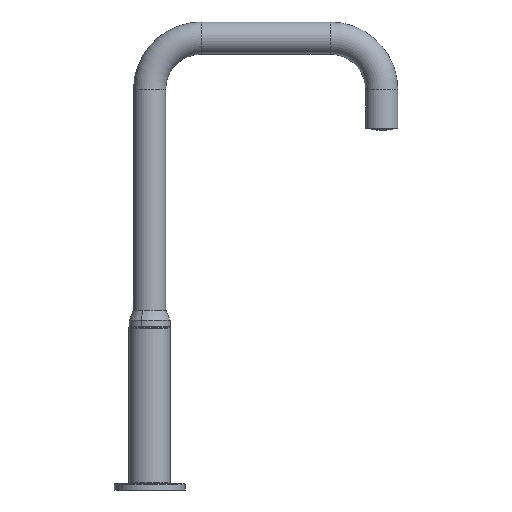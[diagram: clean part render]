
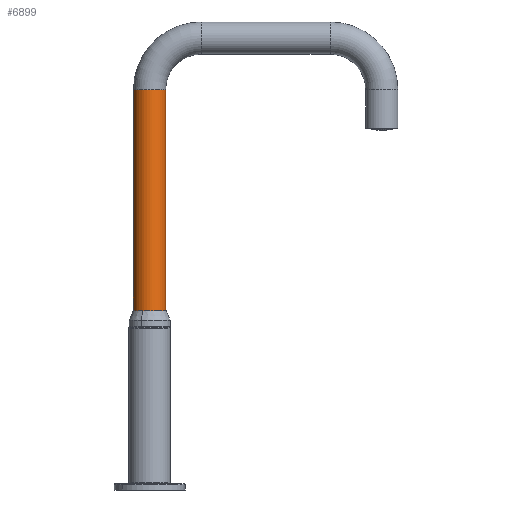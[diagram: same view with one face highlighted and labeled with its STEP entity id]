
A CAD part, front view. The second image highlights one B-rep face of the part: STEP entity #6899.
In plain terms, the highlighted cylindrical face has radius 12.5 mm (diameter 25 mm), a partial arc.
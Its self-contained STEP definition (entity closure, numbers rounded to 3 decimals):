
#302 = ORIENTED_EDGE ( 'NONE', *, *, #44650, .T. ) ;
#433 = CARTESIAN_POINT ( 'NONE',  ( -12.5, 0., 7.4 ) ) ;
#2496 = CARTESIAN_POINT ( 'NONE',  ( -12.388, -1.67, 8.219 ) ) ;
#2722 = VECTOR ( 'NONE', #44207, 1000. ) ;
#2731 = CARTESIAN_POINT ( 'NONE',  ( -12.489, -0.544, 11.533 ) ) ;
#2965 = CARTESIAN_POINT ( 'NONE',  ( -12.5, 0., 11.6 ) ) ;
#3062 = ORIENTED_EDGE ( 'NONE', *, *, #44047, .T. ) ;
#3199 = CARTESIAN_POINT ( 'NONE',  ( -12.456, -1.053, 11.322 ) ) ;
#3337 = CIRCLE ( 'NONE', #43887, 12.5 ) ;
#3431 = CARTESIAN_POINT ( 'NONE',  ( -12.5, 0., 7.4 ) ) ;
#3523 = VECTOR ( 'NONE', #43938, 1000. ) ;
#4466 = DIRECTION ( 'NONE',  ( 1., 0., 0. ) ) ;
#4774 = EDGE_CURVE ( 'NONE', #25846, #40295, #17857, .T. ) ;
#5036 = VERTEX_POINT ( 'NONE', #10198 ) ;
#5537 = ORIENTED_EDGE ( 'NONE', *, *, #14857, .F. ) ;
#5923 = CARTESIAN_POINT ( 'NONE',  ( -12.5, 0., 184. ) ) ;
#6577 = CARTESIAN_POINT ( 'NONE',  ( -12.489, -0.546, 7.468 ) ) ;
#6597 = CARTESIAN_POINT ( 'NONE',  ( 12.5, 0., 184. ) ) ;
#6899 = ADVANCED_FACE ( 'NONE', ( #24477 ), #32404, .T. ) ;
#7015 = AXIS2_PLACEMENT_3D ( 'NONE', #36214, #28795, #13704 ) ;
#7036 = CARTESIAN_POINT ( 'NONE',  ( -12.482, -0.677, 7.507 ) ) ;
#10158 = CARTESIAN_POINT ( 'NONE',  ( -12.325, -2.086, 9.224 ) ) ;
#10198 = CARTESIAN_POINT ( 'NONE',  ( -12.5, 0., 11.6 ) ) ;
#10392 = CARTESIAN_POINT ( 'NONE',  ( -12.322, -2.1, 9.364 ) ) ;
#10621 = CARTESIAN_POINT ( 'NONE',  ( -12.466, -0.931, 7.613 ) ) ;
#10873 = ORIENTED_EDGE ( 'NONE', *, *, #19187, .F. ) ;
#10900 = CARTESIAN_POINT ( 'NONE',  ( 12.5, 0., 184. ) ) ;
#13704 = DIRECTION ( 'NONE',  ( -1., 0., 0. ) ) ;
#13770 = CARTESIAN_POINT ( 'NONE',  ( -12.322, -2.1, 9.775 ) ) ;
#14015 = CARTESIAN_POINT ( 'NONE',  ( -12.435, -1.281, 11.17 ) ) ;
#14247 = CARTESIAN_POINT ( 'NONE',  ( -12.466, -0.932, 11.387 ) ) ;
#14857 = EDGE_CURVE ( 'NONE', #37148, #24976, #3337, .T. ) ;
#15431 = CARTESIAN_POINT ( 'NONE',  ( -12.5, 0., 184. ) ) ;
#17854 = EDGE_LOOP ( 'NONE', ( #10873, #5537, #3062, #44777, #302, #43742 ) ) ;
#17857 = CIRCLE ( 'NONE', #23954, 12.5 ) ;
#17889 = LINE ( 'NONE', #10900, #2722 ) ;
#19187 = EDGE_CURVE ( 'NONE', #24976, #40295, #17889, .T. ) ;
#20145 = DIRECTION ( 'NONE',  ( 0., 0., 1. ) ) ;
#20734 = CARTESIAN_POINT ( 'NONE',  ( -12.482, -0.678, 11.492 ) ) ;
#21664 = CARTESIAN_POINT ( 'NONE',  ( -12.498, -0.276, 11.586 ) ) ;
#22102 = EDGE_CURVE ( 'NONE', #5036, #26216, #29245, .T. ) ;
#23954 = AXIS2_PLACEMENT_3D ( 'NONE', #38016, #44973, #4466 ) ;
#24477 = FACE_OUTER_BOUND ( 'NONE', #17854, .T. ) ;
#24786 = CARTESIAN_POINT ( 'NONE',  ( -12.334, -2.033, 8.955 ) ) ;
#24976 = VERTEX_POINT ( 'NONE', #6597 ) ;
#25025 = CARTESIAN_POINT ( 'NONE',  ( -12.365, -1.835, 10.557 ) ) ;
#25246 = CARTESIAN_POINT ( 'NONE',  ( -12.34, -1.993, 8.824 ) ) ;
#25846 = VERTEX_POINT ( 'NONE', #32416 ) ;
#26216 = VERTEX_POINT ( 'NONE', #433 ) ;
#28795 = DIRECTION ( 'NONE',  ( 0., 0., -1. ) ) ;
#28865 = CARTESIAN_POINT ( 'NONE',  ( -12.4, -1.583, 8.113 ) ) ;
#29245 = B_SPLINE_CURVE_WITH_KNOTS ( 'NONE', 3,
 ( #2965, #35580, #21664, #2731, #20734, #14247, #3199, #14015, #32232, #46590, #25025, #42511, #13770, #10392, #10158, #24786, #25246, #35347, #32469, #2496, #28865, #39387, #43470, #46352, #10621, #7036, #6577, #36276, #38919, #3431 ),
 .UNSPECIFIED., .F., .F.,
 ( 4, 2, 2, 2, 2, 2, 2, 2, 2, 2, 2, 2, 2, 2, 4 ),
 ( 0., 0., 0.001, 0.001, 0.002, 0.002, 0.003, 0.004, 0.004, 0.005, 0.005, 0.005, 0.006, 0.006, 0.007 ),
 .UNSPECIFIED. ) ;
#29334 = LINE ( 'NONE', #15431, #3523 ) ;
#29552 = VECTOR ( 'NONE', #41397, 1000. ) ;
#31171 = DIRECTION ( 'NONE',  ( 1., 0., 0. ) ) ;
#32232 = CARTESIAN_POINT ( 'NONE',  ( -12.423, -1.389, 11.081 ) ) ;
#32404 = CYLINDRICAL_SURFACE ( 'NONE', #7015, 12.5 ) ;
#32416 = CARTESIAN_POINT ( 'NONE',  ( -12.5, 0., 0. ) ) ;
#32469 = CARTESIAN_POINT ( 'NONE',  ( -12.367, -1.822, 8.446 ) ) ;
#34196 = CARTESIAN_POINT ( 'NONE',  ( -12.5, 0., 184. ) ) ;
#35347 = CARTESIAN_POINT ( 'NONE',  ( -12.357, -1.887, 8.569 ) ) ;
#35580 = CARTESIAN_POINT ( 'NONE',  ( -12.5, -0.139, 11.6 ) ) ;
#36214 = CARTESIAN_POINT ( 'NONE',  ( 0., 0., 184. ) ) ;
#36276 = CARTESIAN_POINT ( 'NONE',  ( -12.498, -0.277, 7.414 ) ) ;
#37148 = VERTEX_POINT ( 'NONE', #34196 ) ;
#38016 = CARTESIAN_POINT ( 'NONE',  ( 0., 0., 0. ) ) ;
#38752 = LINE ( 'NONE', #5923, #29552 ) ;
#38919 = CARTESIAN_POINT ( 'NONE',  ( -12.5, -0.137, 7.4 ) ) ;
#39387 = CARTESIAN_POINT ( 'NONE',  ( -12.423, -1.387, 7.917 ) ) ;
#40295 = VERTEX_POINT ( 'NONE', #41934 ) ;
#41397 = DIRECTION ( 'NONE',  ( 0., 0., -1. ) ) ;
#41934 = CARTESIAN_POINT ( 'NONE',  ( 12.5, 0., 0. ) ) ;
#42511 = CARTESIAN_POINT ( 'NONE',  ( -12.332, -2.045, 10.052 ) ) ;
#43119 = CARTESIAN_POINT ( 'NONE',  ( 0., 0., 184. ) ) ;
#43470 = CARTESIAN_POINT ( 'NONE',  ( -12.435, -1.281, 7.831 ) ) ;
#43742 = ORIENTED_EDGE ( 'NONE', *, *, #4774, .T. ) ;
#43887 = AXIS2_PLACEMENT_3D ( 'NONE', #43119, #20145, #31171 ) ;
#43938 = DIRECTION ( 'NONE',  ( 0., 0., -1. ) ) ;
#44047 = EDGE_CURVE ( 'NONE', #37148, #5036, #38752, .T. ) ;
#44207 = DIRECTION ( 'NONE',  ( 0., 0., -1. ) ) ;
#44650 = EDGE_CURVE ( 'NONE', #26216, #25846, #29334, .T. ) ;
#44777 = ORIENTED_EDGE ( 'NONE', *, *, #22102, .T. ) ;
#44973 = DIRECTION ( 'NONE',  ( 0., 0., 1. ) ) ;
#46352 = CARTESIAN_POINT ( 'NONE',  ( -12.456, -1.054, 7.679 ) ) ;
#46590 = CARTESIAN_POINT ( 'NONE',  ( -12.388, -1.679, 10.791 ) ) ;
